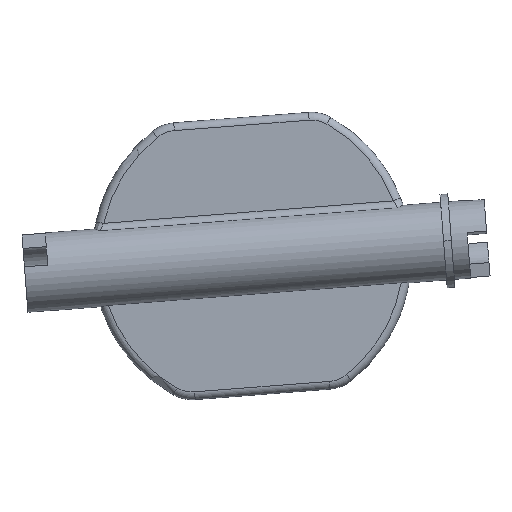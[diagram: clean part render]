
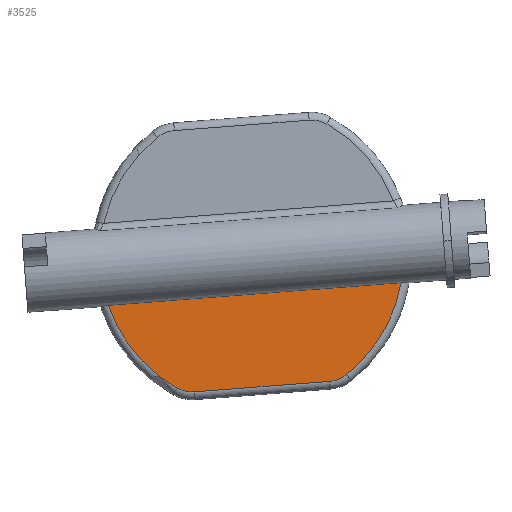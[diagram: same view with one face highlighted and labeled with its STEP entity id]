
A CAD part, front view. The second image highlights one B-rep face of the part: STEP entity #3525.
In plain terms, the highlighted planar face has unit normal (0, -1, 0).
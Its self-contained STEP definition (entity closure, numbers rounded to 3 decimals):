
#1254=CARTESIAN_POINT('',(520.65,-1.,-147.351));
#1255=DIRECTION('',(0.,1.,0.));
#1256=DIRECTION('',(-0.495,0.,-0.869));
#1257=AXIS2_PLACEMENT_3D('',#1254,#1255,#1256);
#1259=DIRECTION('',(-0.997,0.,-0.077));
#1260=VECTOR('',#1259,37.749);
#1261=CARTESIAN_POINT('',(539.847,-1.,-150.778));
#1262=LINE('',#1261,#1260);
#1263=CARTESIAN_POINT('',(520.65,-1.,-147.351));
#1264=DIRECTION('',(0.,1.,0.));
#1265=DIRECTION('',(0.984,0.,-0.176));
#1266=AXIS2_PLACEMENT_3D('',#1263,#1264,#1265);
#1268=CARTESIAN_POINT('',(530.305,-1.,-159.477));
#1269=DIRECTION('',(0.,1.,0.));
#1270=DIRECTION('',(0.623,0.,-0.782));
#1271=AXIS2_PLACEMENT_3D('',#1268,#1269,#1270);
#1273=DIRECTION('',(-0.997,0.,-0.077));
#1274=VECTOR('',#1273,17.38);
#1275=CARTESIAN_POINT('',(530.614,-1.,-163.465));
#1276=LINE('',#1275,#1274);
#1277=CARTESIAN_POINT('',(512.978,-1.,-160.819));
#1278=DIRECTION('',(0.,1.,0.));
#1279=DIRECTION('',(0.077,0.,-0.997));
#1280=AXIS2_PLACEMENT_3D('',#1277,#1278,#1279);
#1567=CARTESIAN_POINT('',(510.998,-1.,-164.295));
#1568=CARTESIAN_POINT('',(502.21,-1.,-153.694));
#1569=VERTEX_POINT('',#1567);
#1570=VERTEX_POINT('',#1568);
#1575=CARTESIAN_POINT('',(513.287,-1.,-164.807));
#1576=VERTEX_POINT('',#1575);
#1577=CARTESIAN_POINT('',(530.614,-1.,-163.465));
#1578=VERTEX_POINT('',#1577);
#1579=CARTESIAN_POINT('',(532.797,-1.,-162.606));
#1580=VERTEX_POINT('',#1579);
#1585=CARTESIAN_POINT('',(539.847,-1.,-150.778));
#1586=VERTEX_POINT('',#1585);
#3507=CARTESIAN_POINT('',(0.,-1.,0.));
#3508=DIRECTION('',(0.,-1.,0.));
#3509=DIRECTION('',(1.,0.,0.));
#3510=AXIS2_PLACEMENT_3D('',#3507,#3508,#3509);
#3511=PLANE('',#3510);
#3513=ORIENTED_EDGE('',*,*,#3512,.T.);
#3514=ORIENTED_EDGE('',*,*,#3083,.F.);
#3516=ORIENTED_EDGE('',*,*,#3515,.T.);
#3518=ORIENTED_EDGE('',*,*,#3517,.T.);
#3520=ORIENTED_EDGE('',*,*,#3519,.T.);
#3522=ORIENTED_EDGE('',*,*,#3521,.T.);
#3523=EDGE_LOOP('',(#3513,#3514,#3516,#3518,#3520,#3522));
#3524=FACE_OUTER_BOUND('',#3523,.F.);
#3525=ADVANCED_FACE('',(#3524),#3511,.T.);
#1258=CIRCLE('',#1257,19.5);
#1267=CIRCLE('',#1266,19.5);
#1272=CIRCLE('',#1271,4.);
#1281=CIRCLE('',#1280,4.);
#3083=EDGE_CURVE('',#1586,#1570,#1262,.T.);
#3512=EDGE_CURVE('',#1569,#1570,#1258,.T.);
#3515=EDGE_CURVE('',#1586,#1580,#1267,.T.);
#3517=EDGE_CURVE('',#1580,#1578,#1272,.T.);
#3519=EDGE_CURVE('',#1578,#1576,#1276,.T.);
#3521=EDGE_CURVE('',#1576,#1569,#1281,.T.);
